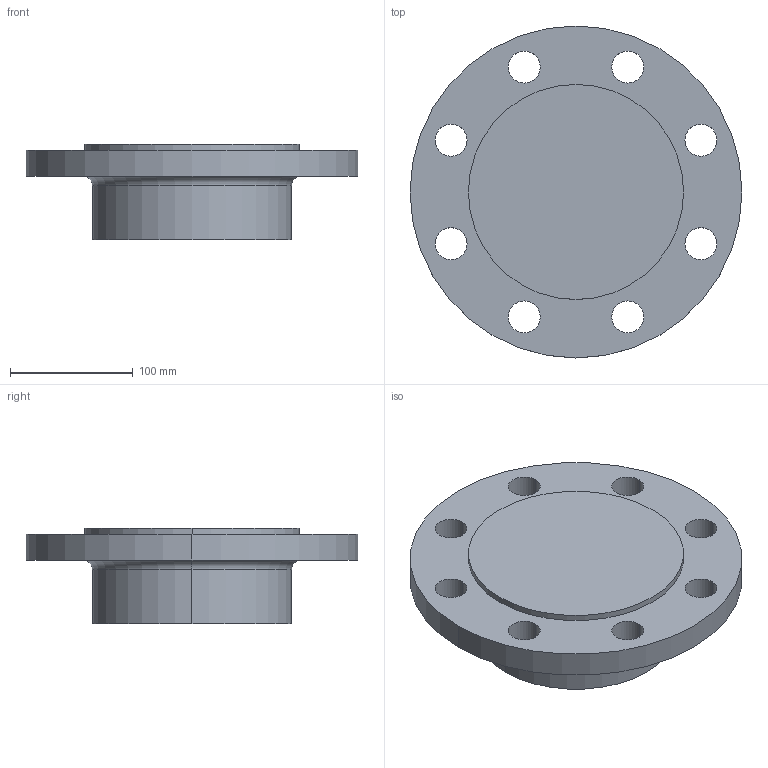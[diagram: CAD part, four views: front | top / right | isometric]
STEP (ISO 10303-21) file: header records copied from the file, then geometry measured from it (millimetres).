
FILE_DESCRIPTION (( 'STEP AP214' ), '1' );
FILE_NAME ('PN40 DN125 Type 21(i) - Type E Face.STEP', '2019-01-02T01:21:57', ( '' ), ( '' ), 'SwSTEP 2.0', 'SolidWorks 2019', '' );
FILE_SCHEMA (( 'AUTOMOTIVE_DESIGN' ));
Length unit declared in the file: millimetre
Products named in the file (1): PN40 DN125 Type 21(i) - Type E Face
Bounding box: 270 x 270 x 78 mm (x, y, z)
Volume: 2312401.7 mm3; surface area: 165046.1 mm2
Topology: 1 solids, 1 shells, 28 faces, 70 edges, 46 vertices
Faces by surface type: cylinder 22, plane 4, torus 2
Entity records: 932 total; most frequent: DIRECTION 176, CARTESIAN_POINT 145, ORIENTED_EDGE 140, AXIS2_PLACEMENT_3D 77, EDGE_CURVE 70, CIRCLE 48, EDGE_LOOP 46, VERTEX_POINT 46
